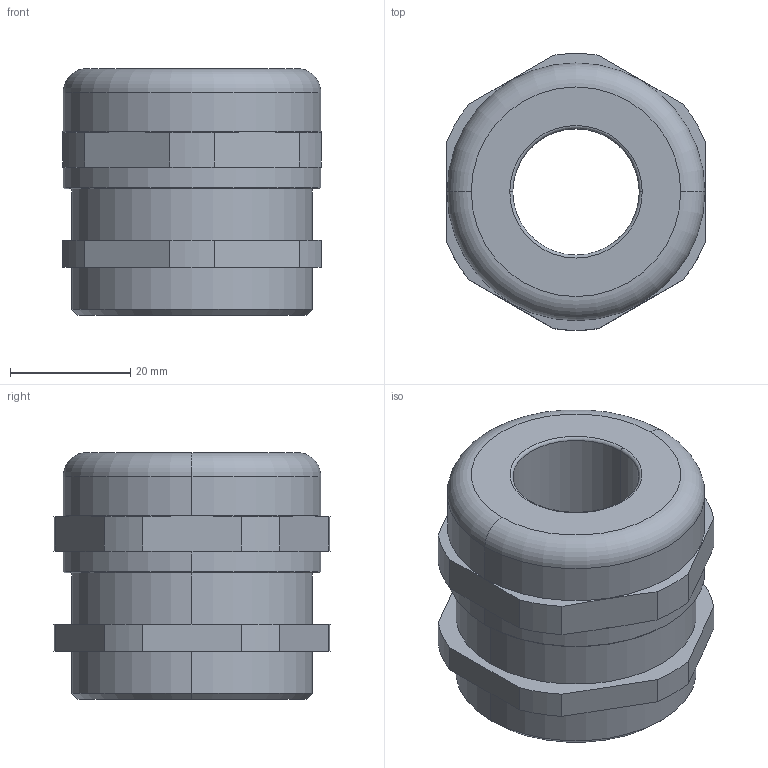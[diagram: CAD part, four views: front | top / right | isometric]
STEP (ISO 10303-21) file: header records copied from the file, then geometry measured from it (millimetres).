
FILE_DESCRIPTION (( 'STEP AP203' ), '1' );
FILE_NAME ('50.640 M-R.STEP', '2005-10-05T07:27:12', ( ' ' ), ( '' ), 'SwSTEP 2.0', 'SolidWorks 2005143', '' );
FILE_SCHEMA (( 'CONFIG_CONTROL_DESIGN' ));
Length unit declared in the file: millimetre
Products named in the file (1): 50.640 M-R
Bounding box: 43 x 45.93 x 41 mm (x, y, z)
Volume: 42564.1 mm3; surface area: 10841 mm2
Topology: 1 solids, 1 shells, 88 faces, 228 edges, 148 vertices
Faces by surface type: plane 54, cylinder 22, cone 8, torus 4
Entity records: 2777 total; most frequent: CARTESIAN_POINT 521, ORIENTED_EDGE 456, DIRECTION 446, EDGE_CURVE 228, VECTOR 156, LINE 156, VERTEX_POINT 148, AXIS2_PLACEMENT_3D 145
